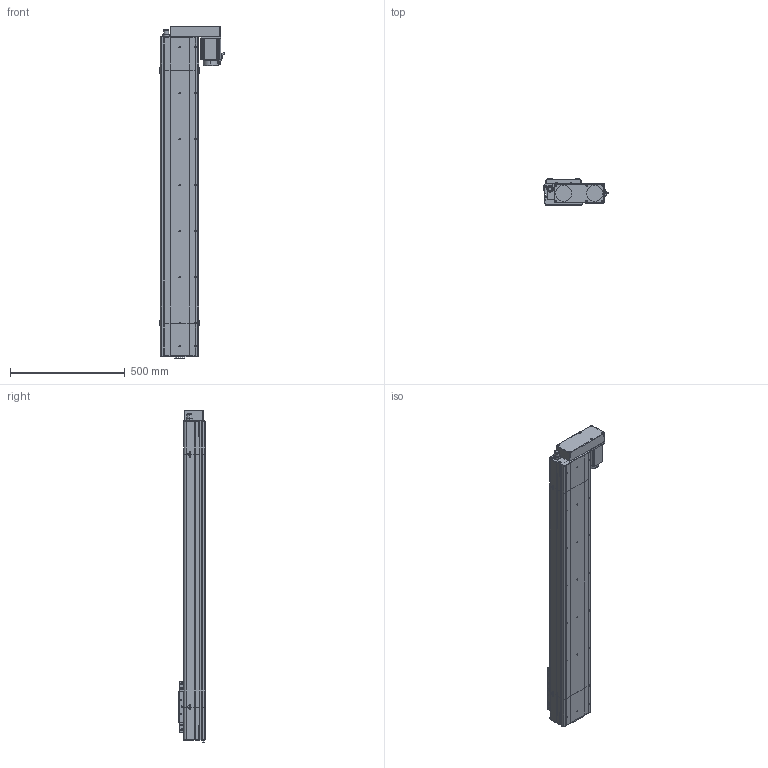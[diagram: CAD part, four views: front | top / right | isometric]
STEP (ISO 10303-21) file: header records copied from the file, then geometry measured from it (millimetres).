
FILE_DESCRIPTION (( 'STEP AP214' ), '1' );
FILE_NAME ('D17 CSH BL S1100.STEP', '2010-06-29T14:28:33', ( 'Christophe Gaillard' ), ( 'SGA' ), 'SwSTEP 2.0', 'SolidWorks 2010', '' );
FILE_SCHEMA (( 'AUTOMOTIVE_DESIGN' ));
Length unit declared in the file: millimetre
Products named in the file (29): vis M5 L47_Default; couvercle D17 head BL_Default; Head D17 BL_Default; corps 90BLDC100A-640; Conecteur2_Default; ecrou_Default; Tail D17+100_Default; codeur 90BLDC100-640; Conecteur_Default; Corp D17 S1100_Default; Corp L1100_Default; couvercle D17-1100_Default; Plaque de bout D17_Default; Corp Tail D17+100_Default; couvercle D17_Default; Support Moteur BL_Default; D17 CSH BL S1100; plaque de serrage D17 head BL_Default; vis M5 L60_Default; Moteur motionking 90BLDC100A-640; avant 90BLDC100A-640; Corp Head  D17 BL_Default; plaque de serrage D17_Default; Plaque de bout D17 head BL_Default; Chariot D17_Default; vis M5 L15_Default; chariot D17_Default; support chariot D17_Default; glissiere_Default
Assembly tree (52 placements, depth 4):
  D17 CSH BL S1100
    Chariot D17_Default
      chariot D17_Default
      vis M5 L15_Default  x8
      glissiere_Default
      support chariot D17_Default
    Tail D17+100_Default
      Corp Tail D17+100_Default
      plaque de serrage D17_Default
      couvercle D17_Default
      vis M5 L15_Default  x6
      Plaque de bout D17_Default
    Corp D17 S1100_Default
      Corp L1100_Default
      couvercle D17-1100_Default
    Head D17 BL_Default
      vis M5 L60_Default  x4
      ecrou_Default  x4
      vis M5 L15_Default  x4
      Moteur motionking 90BLDC100A-640
        codeur 90BLDC100-640
        Conecteur_Default
        Conecteur2_Default
        corps 90BLDC100A-640
        avant 90BLDC100A-640
      vis M5 L47_Default  x2
      Corp Head  D17 BL_Default
      couvercle D17 head BL_Default
      plaque de serrage D17 head BL_Default
      Plaque de bout D17 head BL_Default
      Support Moteur BL_Default
Bounding box: 279.16 x 114 x 1444.2 mm (x, y, z)
Volume: 10341797.9 mm3; surface area: 1821022.7 mm2
Topology: 89 solids, 89 shells, 3199 faces, 8062 edges, 5258 vertices
Faces by surface type: plane 1894, bspline 758, cylinder 428, torus 67, cone 48, sphere 4
Entity records: 149574 total; most frequent: CARTESIAN_POINT 81253, ORIENTED_EDGE 13664, DIRECTION 9912, EDGE_CURVE 6832, LINE 4590, VECTOR 4590, VERTEX_POINT 4526, EDGE_LOOP 2898
